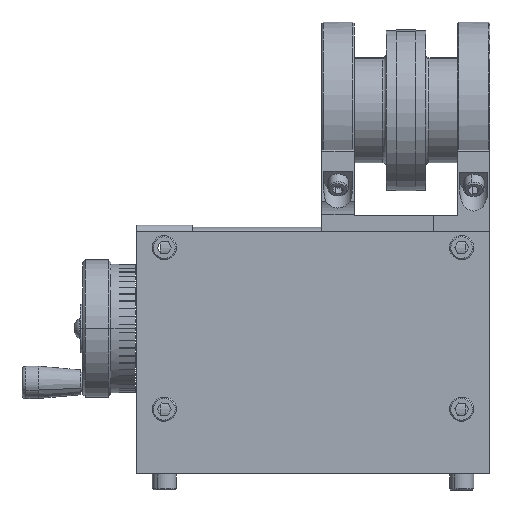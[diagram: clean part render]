
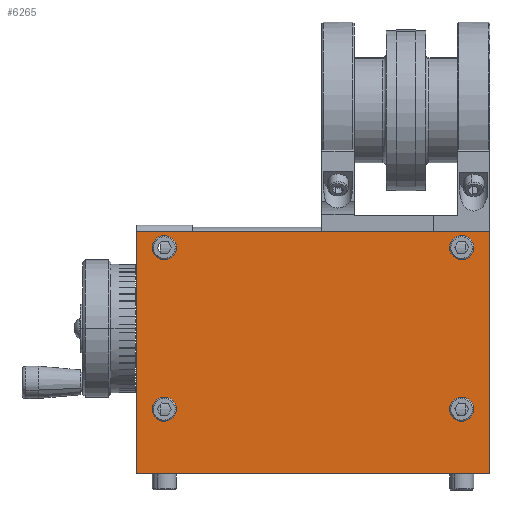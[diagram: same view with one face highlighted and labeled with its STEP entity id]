
A CAD part, left-side view. The second image highlights one B-rep face of the part: STEP entity #6265.
In plain terms, the highlighted planar face has unit normal (-1, 0, 0).
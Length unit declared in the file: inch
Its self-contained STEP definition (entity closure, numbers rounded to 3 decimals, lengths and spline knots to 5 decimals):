
#2 = ORIENTED_EDGE ( 'NONE', *, *, #8733, .F. ) ;
#257 = EDGE_CURVE ( 'NONE', #6595, #16118, #22963, .T. ) ;
#332 = CARTESIAN_POINT ( 'NONE',  ( -1.5, 5.475, -5.625 ) ) ;
#363 = DIRECTION ( 'NONE',  ( 0., -1., 0. ) ) ;
#436 = CARTESIAN_POINT ( 'NONE',  ( -1.5, 0.4375, -2.125 ) ) ;
#544 = EDGE_LOOP ( 'NONE', ( #21053, #17298 ) ) ;
#578 = EDGE_CURVE ( 'NONE', #6002, #2295, #6271, .T. ) ;
#844 = AXIS2_PLACEMENT_3D ( 'NONE', #3693, #16591, #5582 ) ;
#925 = CARTESIAN_POINT ( 'NONE',  ( -1.5, 0.5781, -4.625 ) ) ;
#992 = DIRECTION ( 'NONE',  ( 0., 0., 1. ) ) ;
#1372 = VECTOR ( 'NONE', #1600, 39.37008 ) ;
#1600 = DIRECTION ( 'NONE',  ( 0., -1., 0. ) ) ;
#1613 = EDGE_CURVE ( 'NONE', #6486, #15693, #17303, .T. ) ;
#1753 = EDGE_LOOP ( 'NONE', ( #14053, #1807 ) ) ;
#1807 = ORIENTED_EDGE ( 'NONE', *, *, #17352, .F. ) ;
#1913 = ORIENTED_EDGE ( 'NONE', *, *, #10175, .F. ) ;
#2170 = VECTOR ( 'NONE', #4972, 39.37008 ) ;
#2272 = DIRECTION ( 'NONE',  ( 0., -1., 0. ) ) ;
#2295 = VERTEX_POINT ( 'NONE', #6838 ) ;
#2375 = VERTEX_POINT ( 'NONE', #23317 ) ;
#2761 = CARTESIAN_POINT ( 'NONE',  ( -1.5, 0., -5.625 ) ) ;
#3058 = EDGE_LOOP ( 'NONE', ( #7730, #23728 ) ) ;
#3150 = CARTESIAN_POINT ( 'NONE',  ( -1.5, 5.0375, -4.625 ) ) ;
#3243 = EDGE_CURVE ( 'NONE', #15693, #6486, #21527, .T. ) ;
#3673 = DIRECTION ( 'NONE',  ( 0., -1., 0. ) ) ;
#3693 = CARTESIAN_POINT ( 'NONE',  ( -1.5, 5.0375, -2.125 ) ) ;
#4299 = AXIS2_PLACEMENT_3D ( 'NONE', #3150, #22156, #20918 ) ;
#4972 = DIRECTION ( 'NONE',  ( 0., -1., 0. ) ) ;
#5408 = EDGE_LOOP ( 'NONE', ( #16704, #19216, #1913, #12942 ) ) ;
#5582 = DIRECTION ( 'NONE',  ( 0., -1., 0. ) ) ;
#5708 = LINE ( 'NONE', #2761, #20315 ) ;
#5815 = EDGE_CURVE ( 'NONE', #16231, #18499, #15879, .T. ) ;
#5876 = VECTOR ( 'NONE', #7758, 39.37008 ) ;
#6002 = VERTEX_POINT ( 'NONE', #20465 ) ;
#6265 = ADVANCED_FACE ( 'NONE', ( #15967, #11092, #21359, #13365, #11385 ), #21901, .F. ) ;
#6271 = LINE ( 'NONE', #17986, #2170 ) ;
#6486 = VERTEX_POINT ( 'NONE', #13335 ) ;
#6595 = VERTEX_POINT ( 'NONE', #925 ) ;
#6834 = VERTEX_POINT ( 'NONE', #20283 ) ;
#6838 = CARTESIAN_POINT ( 'NONE',  ( -1.5, 0., -1.875 ) ) ;
#7730 = ORIENTED_EDGE ( 'NONE', *, *, #10097, .F. ) ;
#7758 = DIRECTION ( 'NONE',  ( 0., 0., 1. ) ) ;
#8533 = CARTESIAN_POINT ( 'NONE',  ( -1.5, 0.2969, -4.625 ) ) ;
#8611 = EDGE_LOOP ( 'NONE', ( #19974, #2 ) ) ;
#8733 = EDGE_CURVE ( 'NONE', #14674, #12223, #18316, .T. ) ;
#8765 = EDGE_CURVE ( 'NONE', #12223, #14674, #13454, .T. ) ;
#9093 = DIRECTION ( 'NONE',  ( -1., 0., 0. ) ) ;
#9191 = DIRECTION ( 'NONE',  ( 1., 0., 0. ) ) ;
#9323 = CIRCLE ( 'NONE', #9783, 0.1406 ) ;
#9356 = DIRECTION ( 'NONE',  ( -1., 0., 0. ) ) ;
#9783 = AXIS2_PLACEMENT_3D ( 'NONE', #20313, #9356, #22158 ) ;
#9860 = DIRECTION ( 'NONE',  ( -1., 0., 0. ) ) ;
#10097 = EDGE_CURVE ( 'NONE', #16118, #6595, #9323, .T. ) ;
#10175 = EDGE_CURVE ( 'NONE', #16231, #6002, #15622, .T. ) ;
#11092 = FACE_BOUND ( 'NONE', #544, .T. ) ;
#11380 = DIRECTION ( 'NONE',  ( -1., 0., 0. ) ) ;
#11385 = FACE_OUTER_BOUND ( 'NONE', #5408, .T. ) ;
#12223 = VERTEX_POINT ( 'NONE', #16639 ) ;
#12650 = CARTESIAN_POINT ( 'NONE',  ( -1.5, 5.1781, -4.625 ) ) ;
#12683 = CARTESIAN_POINT ( 'NONE',  ( -1.5, 5.475, -5.625 ) ) ;
#12942 = ORIENTED_EDGE ( 'NONE', *, *, #5815, .T. ) ;
#13291 = DIRECTION ( 'NONE',  ( -1., 0., 0. ) ) ;
#13335 = CARTESIAN_POINT ( 'NONE',  ( -1.5, 4.8969, -4.625 ) ) ;
#13365 = FACE_BOUND ( 'NONE', #8611, .T. ) ;
#13454 = CIRCLE ( 'NONE', #17554, 0.1406 ) ;
#13557 = AXIS2_PLACEMENT_3D ( 'NONE', #22584, #9860, #20715 ) ;
#14053 = ORIENTED_EDGE ( 'NONE', *, *, #16913, .F. ) ;
#14674 = VERTEX_POINT ( 'NONE', #17001 ) ;
#15128 = AXIS2_PLACEMENT_3D ( 'NONE', #22345, #11380, #363 ) ;
#15622 = LINE ( 'NONE', #332, #5876 ) ;
#15693 = VERTEX_POINT ( 'NONE', #12650 ) ;
#15879 = LINE ( 'NONE', #12683, #1372 ) ;
#15967 = FACE_BOUND ( 'NONE', #1753, .T. ) ;
#16118 = VERTEX_POINT ( 'NONE', #8533 ) ;
#16139 = CARTESIAN_POINT ( 'NONE',  ( -1.5, 0.4375, -4.625 ) ) ;
#16231 = VERTEX_POINT ( 'NONE', #21540 ) ;
#16591 = DIRECTION ( 'NONE',  ( -1., 0., 0. ) ) ;
#16639 = CARTESIAN_POINT ( 'NONE',  ( -1.5, 0.2969, -2.125 ) ) ;
#16704 = ORIENTED_EDGE ( 'NONE', *, *, #23242, .T. ) ;
#16913 = EDGE_CURVE ( 'NONE', #2375, #6834, #17626, .T. ) ;
#17001 = CARTESIAN_POINT ( 'NONE',  ( -1.5, 0.5781, -2.125 ) ) ;
#17014 = CARTESIAN_POINT ( 'NONE',  ( -1.5, 0., -5.625 ) ) ;
#17047 = CIRCLE ( 'NONE', #17190, 0.1406 ) ;
#17190 = AXIS2_PLACEMENT_3D ( 'NONE', #20060, #9093, #21888 ) ;
#17298 = ORIENTED_EDGE ( 'NONE', *, *, #3243, .F. ) ;
#17303 = CIRCLE ( 'NONE', #13557, 0.1406 ) ;
#17352 = EDGE_CURVE ( 'NONE', #6834, #2375, #17047, .T. ) ;
#17554 = AXIS2_PLACEMENT_3D ( 'NONE', #436, #13291, #2272 ) ;
#17626 = CIRCLE ( 'NONE', #844, 0.1406 ) ;
#17986 = CARTESIAN_POINT ( 'NONE',  ( -1.5, 5.475, -1.875 ) ) ;
#18316 = CIRCLE ( 'NONE', #15128, 0.1406 ) ;
#18499 = VERTEX_POINT ( 'NONE', #17014 ) ;
#19216 = ORIENTED_EDGE ( 'NONE', *, *, #578, .F. ) ;
#19974 = ORIENTED_EDGE ( 'NONE', *, *, #8765, .F. ) ;
#20060 = CARTESIAN_POINT ( 'NONE',  ( -1.5, 5.0375, -2.125 ) ) ;
#20154 = CARTESIAN_POINT ( 'NONE',  ( -1.5, 5.475, -5.625 ) ) ;
#20263 = AXIS2_PLACEMENT_3D ( 'NONE', #20154, #9191, #21990 ) ;
#20283 = CARTESIAN_POINT ( 'NONE',  ( -1.5, 5.1781, -2.125 ) ) ;
#20313 = CARTESIAN_POINT ( 'NONE',  ( -1.5, 0.4375, -4.625 ) ) ;
#20315 = VECTOR ( 'NONE', #992, 39.37008 ) ;
#20465 = CARTESIAN_POINT ( 'NONE',  ( -1.5, 5.475, -1.875 ) ) ;
#20715 = DIRECTION ( 'NONE',  ( 0., -1., 0. ) ) ;
#20918 = DIRECTION ( 'NONE',  ( 0., -1., 0. ) ) ;
#21053 = ORIENTED_EDGE ( 'NONE', *, *, #1613, .F. ) ;
#21359 = FACE_BOUND ( 'NONE', #3058, .T. ) ;
#21527 = CIRCLE ( 'NONE', #4299, 0.1406 ) ;
#21538 = AXIS2_PLACEMENT_3D ( 'NONE', #16139, #22259, #3673 ) ;
#21540 = CARTESIAN_POINT ( 'NONE',  ( -1.5, 5.475, -5.625 ) ) ;
#21888 = DIRECTION ( 'NONE',  ( 0., -1., 0. ) ) ;
#21901 = PLANE ( 'NONE',  #20263 ) ;
#21990 = DIRECTION ( 'NONE',  ( 0., 1., 0. ) ) ;
#22156 = DIRECTION ( 'NONE',  ( -1., 0., 0. ) ) ;
#22158 = DIRECTION ( 'NONE',  ( 0., -1., 0. ) ) ;
#22259 = DIRECTION ( 'NONE',  ( -1., 0., 0. ) ) ;
#22345 = CARTESIAN_POINT ( 'NONE',  ( -1.5, 0.4375, -2.125 ) ) ;
#22584 = CARTESIAN_POINT ( 'NONE',  ( -1.5, 5.0375, -4.625 ) ) ;
#22963 = CIRCLE ( 'NONE', #21538, 0.1406 ) ;
#23242 = EDGE_CURVE ( 'NONE', #18499, #2295, #5708, .T. ) ;
#23317 = CARTESIAN_POINT ( 'NONE',  ( -1.5, 4.8969, -2.125 ) ) ;
#23728 = ORIENTED_EDGE ( 'NONE', *, *, #257, .F. ) ;
